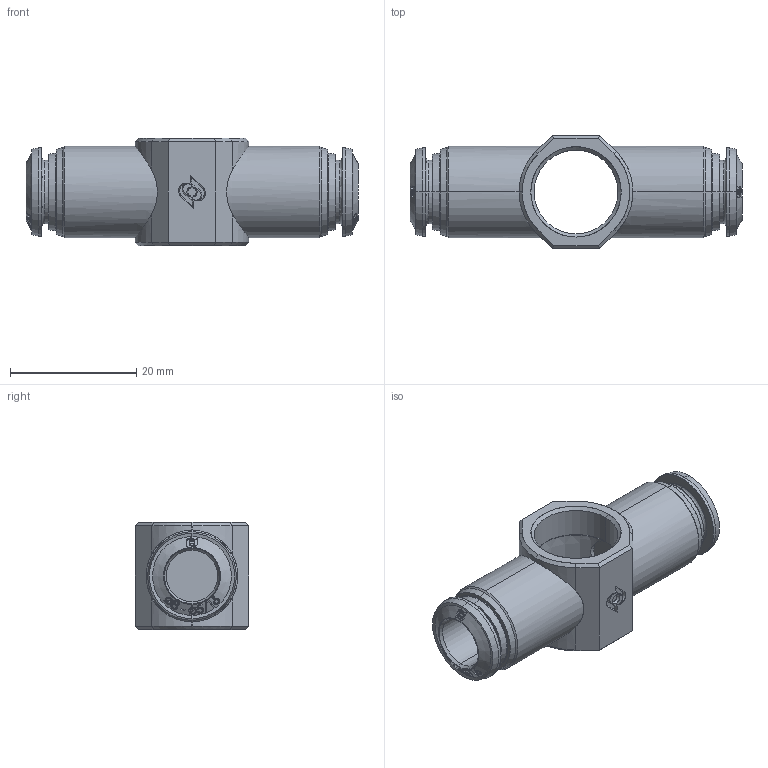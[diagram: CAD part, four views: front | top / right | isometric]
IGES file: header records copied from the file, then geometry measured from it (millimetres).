
Start section: SolidWorks IGES file using analytic representation for surfaces
Global section: file name: K:\Disegni Esecutivi\Serie 50000\ASSIEMI\50510\ASSIEMI_PIENI_50510\5051000007.IGS; native system: SolidWorks 2007; preprocessor: SolidWorks 2007; author: cad02; date: 071011.162456; units: millimetre
Bounding box: 52.6 x 18 x 17 mm (x, y, z)
Surface area: 4649.3 mm2 (no closed solid volume)
Topology: 0 solids, 0 shells, 448 faces, 5120 edges, 5114 vertices
Faces by surface type: bspline 292, revolution 156
